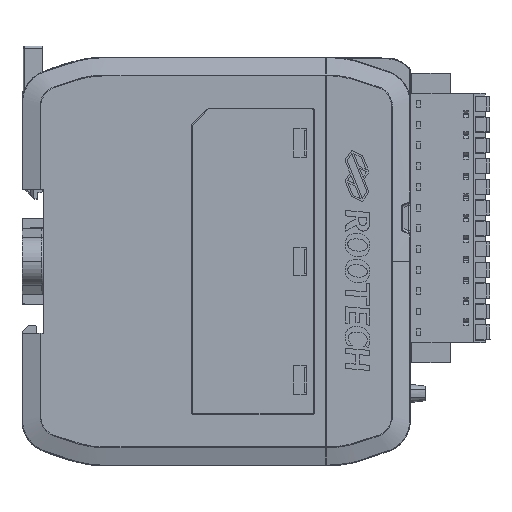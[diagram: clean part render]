
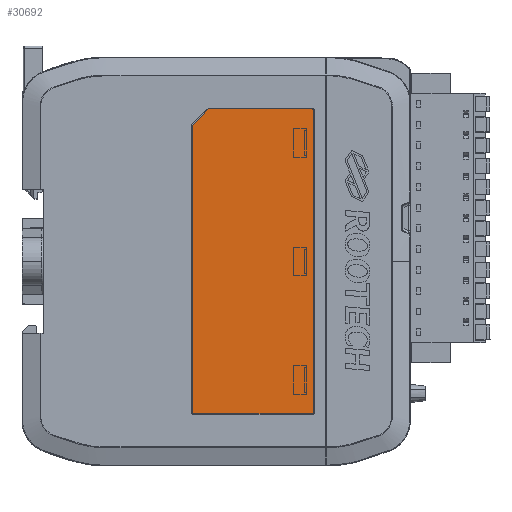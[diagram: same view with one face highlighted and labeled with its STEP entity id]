
A CAD part, top view. The second image highlights one B-rep face of the part: STEP entity #30692.
In plain terms, the highlighted planar face has unit normal (0, 0, 1).
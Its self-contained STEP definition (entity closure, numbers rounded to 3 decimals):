
#1040 = LINE ( 'NONE', #124278, #92800 ) ;
#3252 = EDGE_CURVE ( 'NONE', #142060, #144358, #83955, .T. ) ;
#4607 = DIRECTION ( 'NONE',  ( 0., 0., 1. ) ) ;
#5448 = DIRECTION ( 'NONE',  ( 0., -1., 0. ) ) ;
#6642 = EDGE_CURVE ( 'NONE', #126657, #45978, #119473, .T. ) ;
#13509 = EDGE_CURVE ( 'NONE', #20198, #142060, #43852, .T. ) ;
#17451 = VERTEX_POINT ( 'NONE', #94006 ) ;
#19531 = CARTESIAN_POINT ( 'NONE',  ( 0.3, 74.6, 0.1 ) ) ;
#19946 = EDGE_CURVE ( 'NONE', #45978, #20198, #94404, .T. ) ;
#20198 = VERTEX_POINT ( 'NONE', #41871 ) ;
#22672 = DIRECTION ( 'NONE',  ( 0.707, 0.707, 0. ) ) ;
#23265 = VECTOR ( 'NONE', #5448, 1000. ) ;
#27364 = ORIENTED_EDGE ( 'NONE', *, *, #13509, .T. ) ;
#30692 = ADVANCED_FACE ( 'NONE', ( #129194 ), #106597, .F. ) ;
#33784 = ORIENTED_EDGE ( 'NONE', *, *, #6642, .T. ) ;
#34590 = AXIS2_PLACEMENT_3D ( 'NONE', #113319, #4607, #138043 ) ;
#38984 = CARTESIAN_POINT ( 'NONE',  ( 0., 0., 0.1 ) ) ;
#39777 = VECTOR ( 'NONE', #50127, 1000. ) ;
#39897 = CARTESIAN_POINT ( 'NONE',  ( 29.6, 0., 0.1 ) ) ;
#40254 = CARTESIAN_POINT ( 'NONE',  ( 0., 0., 0.1 ) ) ;
#41871 = CARTESIAN_POINT ( 'NONE',  ( 0., 0.3, 0.1 ) ) ;
#43852 = CIRCLE ( 'NONE', #34590, 0.3 ) ;
#44165 = CARTESIAN_POINT ( 'NONE',  ( 0.3, 74.3, 0.1 ) ) ;
#45978 = VERTEX_POINT ( 'NONE', #83731 ) ;
#50127 = DIRECTION ( 'NONE',  ( 0., 1., 0. ) ) ;
#61360 = DIRECTION ( 'NONE',  ( 1., 0., 0. ) ) ;
#63575 = AXIS2_PLACEMENT_3D ( 'NONE', #44165, #98155, #87194 ) ;
#65066 = DIRECTION ( 'NONE',  ( -1., 0., 0. ) ) ;
#67167 = CARTESIAN_POINT ( 'NONE',  ( 29.6, 4., 0.1 ) ) ;
#70159 = ORIENTED_EDGE ( 'NONE', *, *, #19946, .T. ) ;
#73143 = CARTESIAN_POINT ( 'NONE',  ( 29.3, 74.3, 0.1 ) ) ;
#73763 = VERTEX_POINT ( 'NONE', #89739 ) ;
#75992 = DIRECTION ( 'NONE',  ( 0., 0., 1. ) ) ;
#77590 = CARTESIAN_POINT ( 'NONE',  ( 25.6, 0., 0.1 ) ) ;
#81704 = EDGE_CURVE ( 'NONE', #17451, #114476, #105552, .T. ) ;
#83235 = EDGE_CURVE ( 'NONE', #144358, #17451, #122573, .T. ) ;
#83275 = DIRECTION ( 'NONE',  ( 0., 0., -1. ) ) ;
#83731 = CARTESIAN_POINT ( 'NONE',  ( 0., 74.3, 0.1 ) ) ;
#83955 = LINE ( 'NONE', #128420, #84312 ) ;
#84312 = VECTOR ( 'NONE', #61360, 1000. ) ;
#84737 = DIRECTION ( 'NONE',  ( -1., 0., 0. ) ) ;
#85877 = EDGE_CURVE ( 'NONE', #114476, #73763, #137908, .T. ) ;
#87194 = DIRECTION ( 'NONE',  ( -1., 0., 0. ) ) ;
#89739 = CARTESIAN_POINT ( 'NONE',  ( 29.3, 74.6, 0.1 ) ) ;
#92586 = ORIENTED_EDGE ( 'NONE', *, *, #3252, .T. ) ;
#92800 = VECTOR ( 'NONE', #102394, 1000. ) ;
#94006 = CARTESIAN_POINT ( 'NONE',  ( 29.6, 4., 0.1 ) ) ;
#94404 = LINE ( 'NONE', #38984, #23265 ) ;
#98155 = DIRECTION ( 'NONE',  ( 0., 0., 1. ) ) ;
#98886 = ORIENTED_EDGE ( 'NONE', *, *, #83235, .T. ) ;
#102394 = DIRECTION ( 'NONE',  ( -1., 0., 0. ) ) ;
#103616 = ORIENTED_EDGE ( 'NONE', *, *, #85877, .T. ) ;
#105552 = LINE ( 'NONE', #39897, #39777 ) ;
#106171 = CARTESIAN_POINT ( 'NONE',  ( 0.3, 0., 0.1 ) ) ;
#106597 = PLANE ( 'NONE',  #124389 ) ;
#109344 = ORIENTED_EDGE ( 'NONE', *, *, #120608, .T. ) ;
#113319 = CARTESIAN_POINT ( 'NONE',  ( 0.3, 0.3, 0.1 ) ) ;
#114476 = VERTEX_POINT ( 'NONE', #123238 ) ;
#119473 = CIRCLE ( 'NONE', #63575, 0.3 ) ;
#120463 = ORIENTED_EDGE ( 'NONE', *, *, #81704, .T. ) ;
#120608 = EDGE_CURVE ( 'NONE', #73763, #126657, #1040, .T. ) ;
#121494 = VECTOR ( 'NONE', #22672, 1000. ) ;
#122573 = LINE ( 'NONE', #67167, #121494 ) ;
#123238 = CARTESIAN_POINT ( 'NONE',  ( 29.6, 74.3, 0.1 ) ) ;
#124278 = CARTESIAN_POINT ( 'NONE',  ( 0., 74.6, 0.1 ) ) ;
#124389 = AXIS2_PLACEMENT_3D ( 'NONE', #40254, #83275, #84737 ) ;
#126260 = AXIS2_PLACEMENT_3D ( 'NONE', #73143, #75992, #65066 ) ;
#126459 = EDGE_LOOP ( 'NONE', ( #70159, #27364, #92586, #98886, #120463, #103616, #109344, #33784 ) ) ;
#126657 = VERTEX_POINT ( 'NONE', #19531 ) ;
#128420 = CARTESIAN_POINT ( 'NONE',  ( 0., 0., 0.1 ) ) ;
#129194 = FACE_OUTER_BOUND ( 'NONE', #126459, .T. ) ;
#137908 = CIRCLE ( 'NONE', #126260, 0.3 ) ;
#138043 = DIRECTION ( 'NONE',  ( -1., 0., 0. ) ) ;
#142060 = VERTEX_POINT ( 'NONE', #106171 ) ;
#144358 = VERTEX_POINT ( 'NONE', #77590 ) ;
